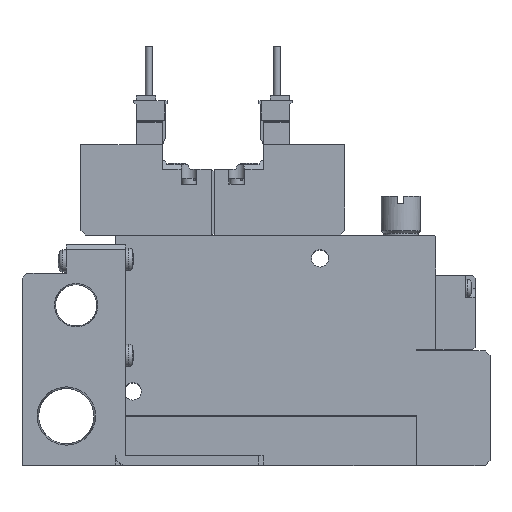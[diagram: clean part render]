
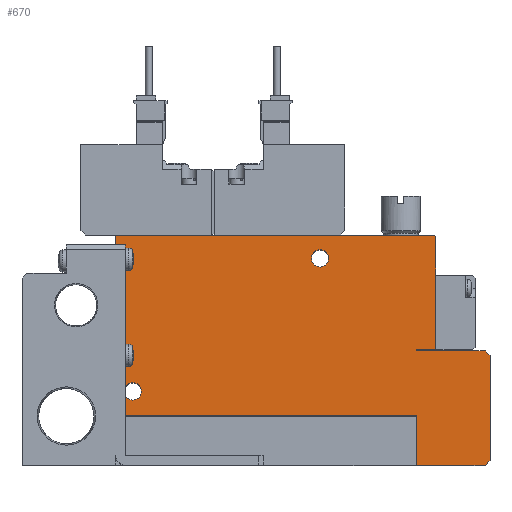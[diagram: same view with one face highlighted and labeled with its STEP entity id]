
A CAD part, top view. The second image highlights one B-rep face of the part: STEP entity #670.
In plain terms, the highlighted planar face has unit normal (0, 0, 1).
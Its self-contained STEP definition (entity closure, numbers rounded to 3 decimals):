
#670=ADVANCED_FACE('',(#1496,#1497,#1498),#1499,.F.);
#1496=FACE_OUTER_BOUND('',#2569,.T.);
#1497=FACE_BOUND('',#2570,.T.);
#1498=FACE_BOUND('',#2571,.T.);
#1499=PLANE('',#2572);
#2569=EDGE_LOOP('',(#5476,#5477,#5478,#5479,#5480,#5481,#5482,#5483,#5484,#5485,#5486,#5487,#5488,#5489));
#2570=EDGE_LOOP('',(#5490));
#2571=EDGE_LOOP('',(#5491));
#2572=AXIS2_PLACEMENT_3D('',#5492,#5493,#5494);
#5476=ORIENTED_EDGE('',*,*,#7449,.T.);
#5477=ORIENTED_EDGE('',*,*,#7452,.F.);
#5478=ORIENTED_EDGE('',*,*,#7418,.F.);
#5479=ORIENTED_EDGE('',*,*,#7413,.T.);
#5480=ORIENTED_EDGE('',*,*,#7426,.T.);
#5481=ORIENTED_EDGE('',*,*,#7436,.T.);
#5482=ORIENTED_EDGE('',*,*,#7455,.T.);
#5483=ORIENTED_EDGE('',*,*,#7409,.T.);
#5484=ORIENTED_EDGE('',*,*,#7391,.T.);
#5485=ORIENTED_EDGE('',*,*,#7389,.T.);
#5486=ORIENTED_EDGE('',*,*,#7368,.T.);
#5487=ORIENTED_EDGE('',*,*,#7443,.T.);
#5488=ORIENTED_EDGE('',*,*,#7456,.T.);
#5489=ORIENTED_EDGE('',*,*,#7445,.T.);
#5490=ORIENTED_EDGE('',*,*,#7447,.F.);
#5491=ORIENTED_EDGE('',*,*,#7427,.F.);
#5492=CARTESIAN_POINT('',(0.0,0.0,5.0));
#5493=DIRECTION('',(0.0,0.0,-1.0));
#5494=DIRECTION('',(0.0,-1.0,0.0));
#7368=EDGE_CURVE('',#8998,#8996,#8999,.T.);
#7389=EDGE_CURVE('',#9038,#8998,#9039,.T.);
#7391=EDGE_CURVE('',#9041,#9038,#9042,.T.);
#7409=EDGE_CURVE('',#9073,#9041,#9074,.T.);
#7413=EDGE_CURVE('',#9076,#9078,#9080,.T.);
#7418=EDGE_CURVE('',#9076,#9086,#9087,.T.);
#7426=EDGE_CURVE('',#9078,#9098,#9100,.T.);
#7427=EDGE_CURVE('',#9101,#9101,#9102,.T.);
#7436=EDGE_CURVE('',#9098,#9114,#9116,.T.);
#7443=EDGE_CURVE('',#8996,#9122,#9124,.T.);
#7445=EDGE_CURVE('',#9127,#9125,#9128,.T.);
#7447=EDGE_CURVE('',#9130,#9130,#9131,.T.);
#7449=EDGE_CURVE('',#9125,#9132,#9134,.T.);
#7452=EDGE_CURVE('',#9086,#9132,#9137,.T.);
#7455=EDGE_CURVE('',#9114,#9073,#9140,.T.);
#7456=EDGE_CURVE('',#9122,#9127,#9141,.T.);
#8996=VERTEX_POINT('',#11613);
#8998=VERTEX_POINT('',#11616);
#8999=LINE('',#11617,#11618);
#9038=VERTEX_POINT('',#11672);
#9039=LINE('',#11673,#11674);
#9041=VERTEX_POINT('',#11677);
#9042=LINE('',#11678,#11679);
#9073=VERTEX_POINT('',#11720);
#9074=LINE('',#11721,#11722);
#9076=VERTEX_POINT('',#11725);
#9078=VERTEX_POINT('',#11728);
#9080=LINE('',#11731,#11732);
#9086=VERTEX_POINT('',#11742);
#9087=LINE('',#11743,#11744);
#9098=VERTEX_POINT('',#11760);
#9100=LINE('',#11763,#11764);
#9101=VERTEX_POINT('',#11765);
#9102=CIRCLE('',#11766,1.75);
#9114=VERTEX_POINT('',#11781);
#9116=LINE('',#11784,#11785);
#9122=VERTEX_POINT('',#11796);
#9124=LINE('',#11799,#11800);
#9125=VERTEX_POINT('',#11801);
#9127=VERTEX_POINT('',#11804);
#9128=LINE('',#11805,#11806);
#9130=VERTEX_POINT('',#11809);
#9131=CIRCLE('',#11810,1.75);
#9132=VERTEX_POINT('',#11811);
#9134=LINE('',#11814,#11815);
#9137=LINE('',#11820,#11821);
#9140=LINE('',#11825,#11826);
#9141=LINE('',#11827,#11828);
#11613=CARTESIAN_POINT('',(65.0,46.4,5.0));
#11616=CARTESIAN_POINT('',(65.0,23.5,5.0));
#11617=CARTESIAN_POINT('',(65.0,23.5,5.0));
#11618=VECTOR('',#14105,1.0);
#11672=CARTESIAN_POINT('',(61.0,23.5,5.0));
#11673=CARTESIAN_POINT('',(61.0,23.5,5.0));
#11674=VECTOR('',#14136,1.0);
#11677=CARTESIAN_POINT('',(61.0,23.25,5.0));
#11678=CARTESIAN_POINT('',(61.0,23.25,5.0));
#11679=VECTOR('',#14138,1.0);
#11720=CARTESIAN_POINT('',(75.0,23.25,5.0));
#11721=CARTESIAN_POINT('',(75.0,23.25,5.0));
#11722=VECTOR('',#14170,1.0);
#11725=CARTESIAN_POINT('',(61.1,0.0,5.0));
#11728=CARTESIAN_POINT('',(75.0,0.0,5.0));
#11731=CARTESIAN_POINT('',(0.0,0.0,5.0));
#11732=VECTOR('',#14174,1.0);
#11742=CARTESIAN_POINT('',(61.1,10.1,5.0));
#11743=CARTESIAN_POINT('',(61.1,0.0,5.0));
#11744=VECTOR('',#14179,1.0);
#11760=CARTESIAN_POINT('',(76.0,1.0,5.0));
#11763=CARTESIAN_POINT('',(75.0,0.0,5.0));
#11764=VECTOR('',#14189,1.0);
#11765=CARTESIAN_POINT('',(43.25,42.0,5.0));
#11766=AXIS2_PLACEMENT_3D('',#14190,#14191,#14192);
#11781=CARTESIAN_POINT('',(76.0,22.25,5.0));
#11784=CARTESIAN_POINT('',(76.0,1.0,5.0));
#11785=VECTOR('',#14209,1.0);
#11796=CARTESIAN_POINT('',(64.8,46.6,5.0));
#11799=CARTESIAN_POINT('',(65.0,46.4,5.0));
#11800=VECTOR('',#14216,1.0);
#11801=CARTESIAN_POINT('',(0.0,46.4,5.0));
#11804=CARTESIAN_POINT('',(0.2,46.6,5.0));
#11805=CARTESIAN_POINT('',(0.2,46.6,5.0));
#11806=VECTOR('',#14218,1.0);
#11809=CARTESIAN_POINT('',(5.25,15.0,5.0));
#11810=AXIS2_PLACEMENT_3D('',#14220,#14221,#14222);
#11811=CARTESIAN_POINT('',(0.0,10.1,5.0));
#11814=CARTESIAN_POINT('',(0.0,46.4,5.0));
#11815=VECTOR('',#14224,1.0);
#11820=CARTESIAN_POINT('',(61.1,10.1,5.0));
#11821=VECTOR('',#14227,1.0);
#11825=CARTESIAN_POINT('',(76.0,22.25,5.0));
#11826=VECTOR('',#14232,1.0);
#11827=CARTESIAN_POINT('',(64.8,46.6,5.0));
#11828=VECTOR('',#14233,1.0);
#14105=DIRECTION('',(0.0,1.0,0.0));
#14136=DIRECTION('',(1.0,0.,0.0));
#14138=DIRECTION('',(0.0,1.0,0.0));
#14170=DIRECTION('',(-1.0,0.0,0.0));
#14174=DIRECTION('',(1.0,0.0,0.0));
#14179=DIRECTION('',(0.0,1.0,0.0));
#14189=DIRECTION('',(0.707,0.707,0.0));
#14190=CARTESIAN_POINT('',(41.5,42.0,5.0));
#14191=DIRECTION('',(0.0,0.0,1.0));
#14192=DIRECTION('',(1.0,0.0,0.0));
#14209=DIRECTION('',(0.0,1.0,0.0));
#14216=DIRECTION('',(-0.707,0.707,0.0));
#14218=DIRECTION('',(-0.707,-0.707,0.0));
#14220=CARTESIAN_POINT('',(3.5,15.0,5.0));
#14221=DIRECTION('',(0.0,0.0,1.0));
#14222=DIRECTION('',(1.0,0.0,0.0));
#14224=DIRECTION('',(0.0,-1.0,0.0));
#14227=DIRECTION('',(-1.0,0.0,0.0));
#14232=DIRECTION('',(-0.707,0.707,0.0));
#14233=DIRECTION('',(-1.0,0.0,0.0));
